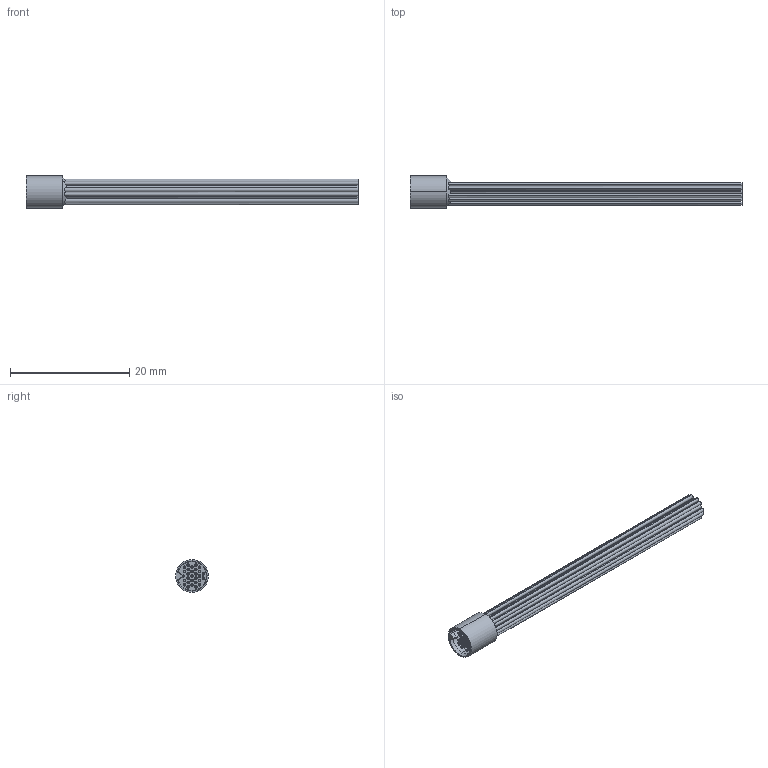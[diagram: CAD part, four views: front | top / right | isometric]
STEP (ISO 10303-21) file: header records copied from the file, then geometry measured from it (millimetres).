
FILE_DESCRIPTION (( 'STEP AP214' ), '1' );
FILE_NAME ('A79107-001 REV D.STEP', '2015-11-06T13:50:09', ( '' ), ( '' ), 'SwSTEP 2.0', 'SolidWorks 2015', '' );
FILE_SCHEMA (( 'AUTOMOTIVE_DESIGN' ));
Length unit declared in the file: inch
Products named in the file (1): A79107-001
Bounding box: 55.66 x 5.51 x 5.51 mm (x, y, z)
Volume: 509.8 mm3; surface area: 2987.3 mm2
Topology: 1 solids, 29 shells, 472 faces, 956 edges, 598 vertices
Faces by surface type: cylinder 290, plane 119, torus 56, cone 5, sphere 2
Entity records: 13025 total; most frequent: CARTESIAN_POINT 2601, DIRECTION 2429, ORIENTED_EDGE 1912, AXIS2_PLACEMENT_3D 1062, EDGE_CURVE 956, VERTEX_POINT 598, CIRCLE 589, EDGE_LOOP 584
